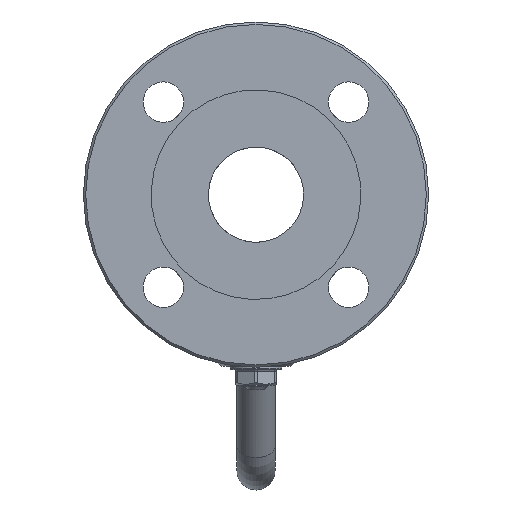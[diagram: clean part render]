
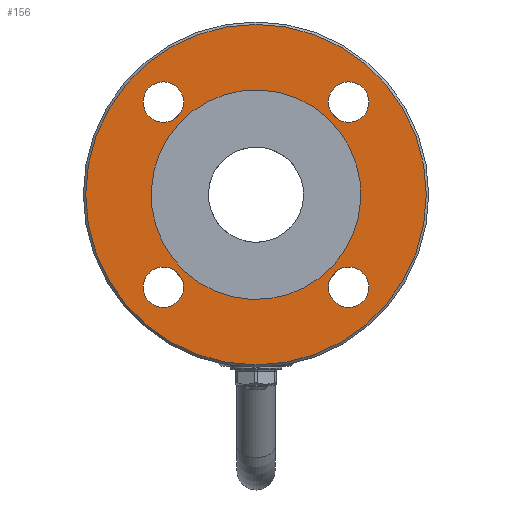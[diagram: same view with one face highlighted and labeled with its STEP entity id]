
A CAD part, left-side view. The second image highlights one B-rep face of the part: STEP entity #156.
In plain terms, the highlighted planar face has unit normal (-1, 0, 0).
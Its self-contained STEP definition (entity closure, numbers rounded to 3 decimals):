
#156=ADVANCED_FACE('',(#1289,#1291,#1293,#1295,#1297,#1299),#1301,.T.);
#1289=FACE_BOUND('',#1290,.T.);
#1290=EDGE_LOOP('',(#2177));
#1291=FACE_BOUND('',#1292,.T.);
#1292=EDGE_LOOP('',(#2178));
#1293=FACE_BOUND('',#1294,.T.);
#1294=EDGE_LOOP('',(#2179));
#1295=FACE_BOUND('',#1296,.T.);
#1296=EDGE_LOOP('',(#2180));
#1297=FACE_BOUND('',#1298,.T.);
#1298=EDGE_LOOP('',(#2181));
#1299=FACE_OUTER_BOUND('',#1300,.T.);
#1300=EDGE_LOOP('',(#2182));
#1301=PLANE('',#1302);
#1302=AXIS2_PLACEMENT_3D('',#1303,#1304,#1305);
#1303=CARTESIAN_POINT('',(-78.5,0.,0.));
#1304=DIRECTION('',(-1.,0.,0.));
#1305=DIRECTION('',(0.,1.,0.));
#2177=ORIENTED_EDGE('',*,*,#3190,.T.);
#2178=ORIENTED_EDGE('',*,*,#3191,.T.);
#2179=ORIENTED_EDGE('',*,*,#3192,.T.);
#2180=ORIENTED_EDGE('',*,*,#3193,.T.);
#2181=ORIENTED_EDGE('',*,*,#3174,.T.);
#2182=ORIENTED_EDGE('',*,*,#3194,.T.);
#3174=EDGE_CURVE('',#3498,#3498,#3500,.T.);
#3190=EDGE_CURVE('',#3524,#3524,#3525,.T.);
#3191=EDGE_CURVE('',#3526,#3526,#3527,.T.);
#3192=EDGE_CURVE('',#3528,#3528,#3529,.T.);
#3193=EDGE_CURVE('',#3530,#3530,#3531,.T.);
#3194=EDGE_CURVE('',#3532,#3532,#3533,.T.);
#3498=VERTEX_POINT('',#4367);
#3500=CIRCLE('',#4371,44.);
#3524=VERTEX_POINT('',#4431);
#3525=CIRCLE('',#4432,8.5);
#3526=VERTEX_POINT('',#4436);
#3527=CIRCLE('',#4437,8.5);
#3528=VERTEX_POINT('',#4441);
#3529=CIRCLE('',#4442,8.5);
#3530=VERTEX_POINT('',#4446);
#3531=CIRCLE('',#4447,8.5);
#3532=VERTEX_POINT('',#4451);
#3533=CIRCLE('',#4452,71.5);
#4367=CARTESIAN_POINT('',(-78.5,35.141,-26.479));
#4371=AXIS2_PLACEMENT_3D('',#4372,#4373,#4374);
#4372=CARTESIAN_POINT('',(-78.5,0.,0.));
#4373=DIRECTION('',(1.,0.,0.));
#4374=DIRECTION('',(0.,0.799,-0.602));
#4431=CARTESIAN_POINT('',(-78.5,-38.891,47.391));
#4432=AXIS2_PLACEMENT_3D('',#4433,#4434,#4435);
#4433=CARTESIAN_POINT('',(-78.5,-38.891,38.891));
#4434=DIRECTION('',(1.,0.,0.));
#4435=DIRECTION('',(0.,0.,1.));
#4436=CARTESIAN_POINT('',(-78.5,-47.391,-38.891));
#4437=AXIS2_PLACEMENT_3D('',#4438,#4439,#4440);
#4438=CARTESIAN_POINT('',(-78.5,-38.891,-38.891));
#4439=DIRECTION('',(1.,0.,0.));
#4440=DIRECTION('',(0.,-1.,0.));
#4441=CARTESIAN_POINT('',(-78.5,38.891,-47.391));
#4442=AXIS2_PLACEMENT_3D('',#4443,#4444,#4445);
#4443=CARTESIAN_POINT('',(-78.5,38.891,-38.891));
#4444=DIRECTION('',(1.,0.,0.));
#4445=DIRECTION('',(0.,0.,-1.));
#4446=CARTESIAN_POINT('',(-78.5,47.391,38.891));
#4447=AXIS2_PLACEMENT_3D('',#4448,#4449,#4450);
#4448=CARTESIAN_POINT('',(-78.5,38.891,38.891));
#4449=DIRECTION('',(1.,0.,0.));
#4450=DIRECTION('',(0.,1.,0.));
#4451=CARTESIAN_POINT('',(-78.5,71.5,0.));
#4452=AXIS2_PLACEMENT_3D('',#4453,#4454,#4455);
#4453=CARTESIAN_POINT('',(-78.5,0.,0.));
#4454=DIRECTION('',(-1.,0.,0.));
#4455=DIRECTION('',(0.,1.,0.));
